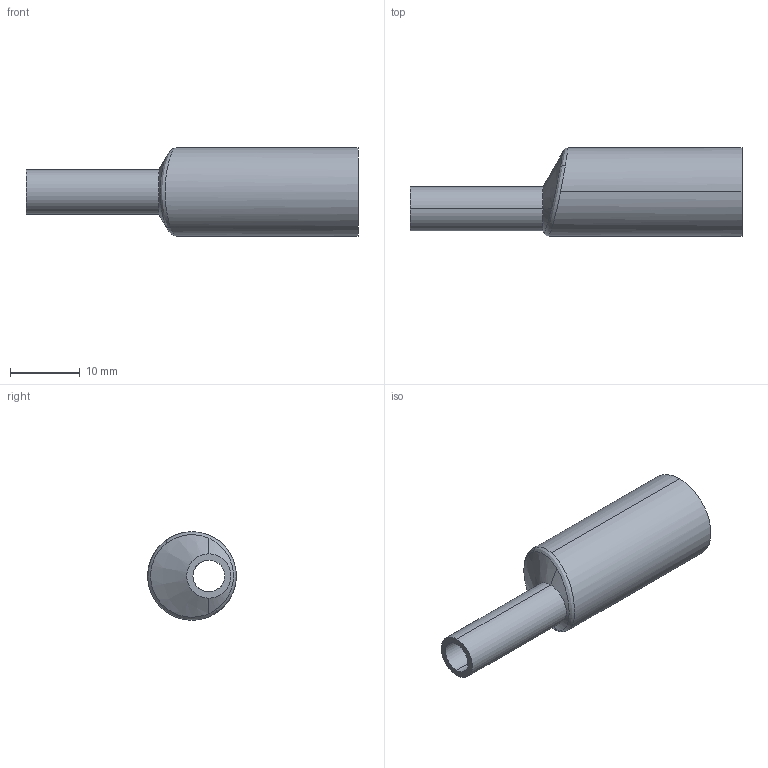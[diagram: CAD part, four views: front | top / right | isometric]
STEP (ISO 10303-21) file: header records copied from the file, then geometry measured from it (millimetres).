
FILE_DESCRIPTION (( 'STEP AP214' ), '1' );
FILE_NAME ('TE32SWW6L.5x.25-...STEP', '2016-06-01T04:49:02', ( 'eran' ), ( '' ), 'SwSTEP 2.0', 'SolidWorks 2016', '' );
FILE_SCHEMA (( 'AUTOMOTIVE_DESIGN' ));
Length unit declared in the file: millimetre
Products named in the file (1): TE32SWW6L.5x.25-..
Bounding box: 47.62 x 12.7 x 12.7 mm (x, y, z)
Volume: 2650.1 mm3; surface area: 2515.1 mm2
Topology: 1 solids, 1 shells, 24 faces, 55 edges, 33 vertices
Faces by surface type: cylinder 11, cone 7, plane 2, bspline 2, torus 2
Entity records: 1233 total; most frequent: CARTESIAN_POINT 682, ORIENTED_EDGE 110, DIRECTION 103, EDGE_CURVE 55, AXIS2_PLACEMENT_3D 44, VERTEX_POINT 33, EDGE_LOOP 26, ADVANCED_FACE 24
